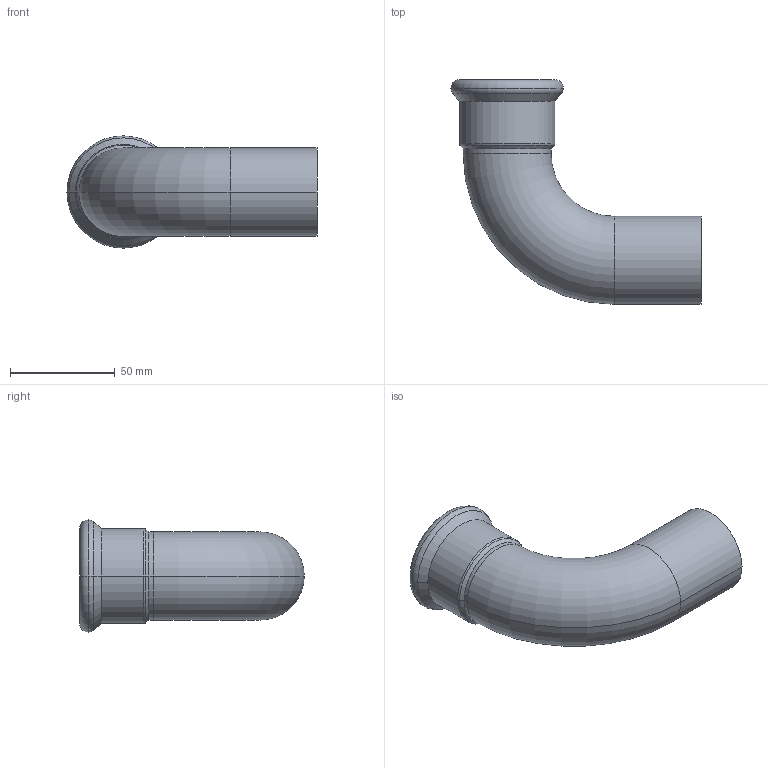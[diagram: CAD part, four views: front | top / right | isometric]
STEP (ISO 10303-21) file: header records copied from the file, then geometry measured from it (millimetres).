
FILE_DESCRIPTION(('OneSpaceDesigner STEP Export'),'2;1');
FILE_NAME('R2711 42x42.stp','2010-06-09T15:10:20',(''),(''),'OneSpace Designer STEP processor for AP214 (Solid Model)','OneSpace Modeling 15.00A 14-Mar-2007 (C) CoCreate Software GmbH','');
FILE_SCHEMA(('AUTOMOTIVE_DESIGN { 1 0 10303 214 1 1 1 1 }'));
Length unit declared in the file: millimetre
Products named in the file (2): R2711_42x42
Assembly tree (1 placements, depth 2):
  R2711_42x42
    R2711_42x42
Bounding box: 119.28 x 107.1 x 53.55 mm (x, y, z)
Volume: 35810.7 mm3; surface area: 43357 mm2
Topology: 1 solids, 1 shells, 68 faces, 166 edges, 105 vertices
Faces by surface type: plane 31, cylinder 23, torus 10, cone 4
Entity records: 1788 total; most frequent: ORIENTED_EDGE 332, CARTESIAN_POINT 285, DIRECTION 267, EDGE_CURVE 166, VERTEX_POINT 105, VECTOR 93, LINE 93, AXIS2_PLACEMENT_3D 87
